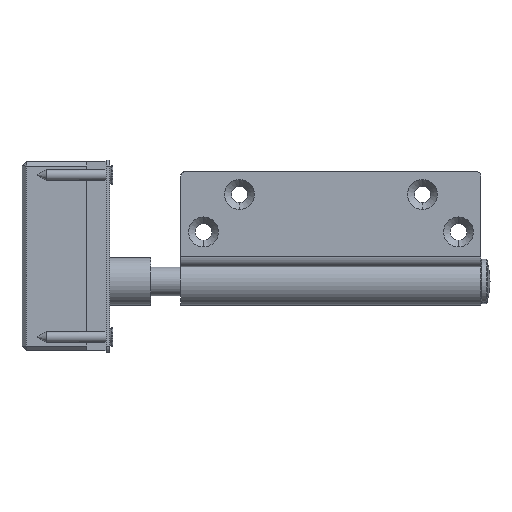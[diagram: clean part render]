
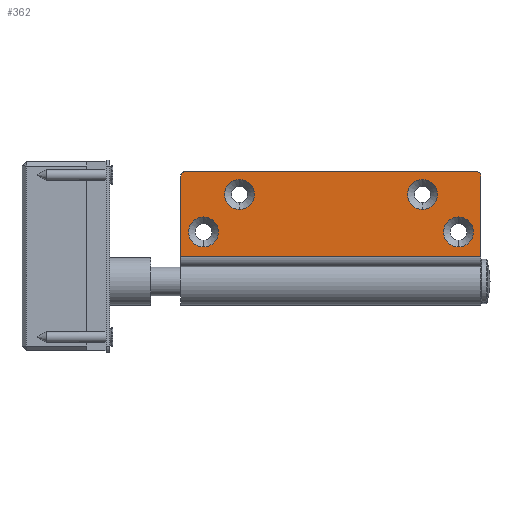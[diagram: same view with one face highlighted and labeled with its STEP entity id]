
A CAD part, left-side view. The second image highlights one B-rep face of the part: STEP entity #362.
In plain terms, the highlighted planar face has unit normal (-1, 0, 0).
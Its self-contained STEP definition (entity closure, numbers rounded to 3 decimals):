
#40 = CIRCLE ( 'NONE', #5202, 1. ) ;
#60 = CARTESIAN_POINT ( 'NONE',  ( 34.336, -32.391, 11.723 ) ) ;
#84 = CIRCLE ( 'NONE', #1997, 5. ) ;
#126 = CIRCLE ( 'NONE', #5201, 5. ) ;
#132 = CARTESIAN_POINT ( 'NONE',  ( 34.336, 52.609, 16.723 ) ) ;
#133 = DIRECTION ( 'NONE',  ( 0., -1., 0. ) ) ;
#191 = DIRECTION ( 'NONE',  ( 1., 0., 0. ) ) ;
#235 = ORIENTED_EDGE ( 'NONE', *, *, #981, .T. ) ;
#241 = CARTESIAN_POINT ( 'NONE',  ( 34.336, -20.391, 24.223 ) ) ;
#301 = LINE ( 'NONE', #2934, #983 ) ;
#322 = CIRCLE ( 'NONE', #2418, 5. ) ;
#359 = ORIENTED_EDGE ( 'NONE', *, *, #2956, .T. ) ;
#360 = EDGE_CURVE ( 'NONE', #4574, #5627, #2756, .T. ) ;
#362 = ADVANCED_FACE ( 'NONE', ( #3219, #647, #1538, #4094, #3249 ), #4121, .F. ) ;
#447 = CARTESIAN_POINT ( 'NONE',  ( 34.336, -20.391, 34.223 ) ) ;
#647 = FACE_BOUND ( 'NONE', #4544, .T. ) ;
#665 = CARTESIAN_POINT ( 'NONE',  ( 34.336, -32.391, 16.723 ) ) ;
#674 = DIRECTION ( 'NONE',  ( 0., 0., 1. ) ) ;
#676 = DIRECTION ( 'NONE',  ( 0., 0., -1. ) ) ;
#754 = EDGE_LOOP ( 'NONE', ( #359, #3417 ) ) ;
#773 = ORIENTED_EDGE ( 'NONE', *, *, #4048, .F. ) ;
#806 = VECTOR ( 'NONE', #133, 1000. ) ;
#876 = CIRCLE ( 'NONE', #1330, 5. ) ;
#890 = EDGE_CURVE ( 'NONE', #4574, #4867, #40, .T. ) ;
#981 = EDGE_CURVE ( 'NONE', #4124, #4071, #2774, .T. ) ;
#983 = VECTOR ( 'NONE', #674, 1000. ) ;
#1022 = EDGE_CURVE ( 'NONE', #3284, #5627, #3678, .T. ) ;
#1037 = VERTEX_POINT ( 'NONE', #3545 ) ;
#1089 = VERTEX_POINT ( 'NONE', #60 ) ;
#1194 = ORIENTED_EDGE ( 'NONE', *, *, #360, .F. ) ;
#1209 = DIRECTION ( 'NONE',  ( 0., 0., 1. ) ) ;
#1245 = ORIENTED_EDGE ( 'NONE', *, *, #1022, .T. ) ;
#1328 = VERTEX_POINT ( 'NONE', #3401 ) ;
#1330 = AXIS2_PLACEMENT_3D ( 'NONE', #4724, #3520, #5618 ) ;
#1364 = ORIENTED_EDGE ( 'NONE', *, *, #2158, .T. ) ;
#1453 = LINE ( 'NONE', #4875, #5154 ) ;
#1486 = CARTESIAN_POINT ( 'NONE',  ( 34.336, 60.109, 36.723 ) ) ;
#1538 = FACE_BOUND ( 'NONE', #4912, .T. ) ;
#1593 = LINE ( 'NONE', #4559, #3333 ) ;
#1615 = DIRECTION ( 'NONE',  ( 1., 0., 0. ) ) ;
#1652 = DIRECTION ( 'NONE',  ( 1., 0., 0. ) ) ;
#1664 = CARTESIAN_POINT ( 'NONE',  ( 34.336, 59.109, 36.723 ) ) ;
#1720 = DIRECTION ( 'NONE',  ( 1., 0., 0. ) ) ;
#1829 = DIRECTION ( 'NONE',  ( -1., 0., 0. ) ) ;
#1966 = VERTEX_POINT ( 'NONE', #3494 ) ;
#1997 = AXIS2_PLACEMENT_3D ( 'NONE', #5397, #3729, #5460 ) ;
#2004 = DIRECTION ( 'NONE',  ( 0., 0., -1. ) ) ;
#2025 = VERTEX_POINT ( 'NONE', #3992 ) ;
#2157 = AXIS2_PLACEMENT_3D ( 'NONE', #665, #1652, #5065 ) ;
#2158 = EDGE_CURVE ( 'NONE', #4071, #4124, #126, .T. ) ;
#2181 = AXIS2_PLACEMENT_3D ( 'NONE', #132, #2755, #2730 ) ;
#2333 = AXIS2_PLACEMENT_3D ( 'NONE', #4315, #4340, #3495 ) ;
#2390 = CARTESIAN_POINT ( 'NONE',  ( 34.336, 60.109, 5.073 ) ) ;
#2418 = AXIS2_PLACEMENT_3D ( 'NONE', #5347, #5320, #3654 ) ;
#2730 = DIRECTION ( 'NONE',  ( 0., 0., -1. ) ) ;
#2755 = DIRECTION ( 'NONE',  ( 1., 0., 0. ) ) ;
#2756 = LINE ( 'NONE', #1486, #806 ) ;
#2774 = CIRCLE ( 'NONE', #5300, 5. ) ;
#2834 = ORIENTED_EDGE ( 'NONE', *, *, #3025, .T. ) ;
#2839 = EDGE_CURVE ( 'NONE', #1089, #3686, #2974, .T. ) ;
#2840 = CARTESIAN_POINT ( 'NONE',  ( 34.336, -38.891, 36.723 ) ) ;
#2898 = AXIS2_PLACEMENT_3D ( 'NONE', #2390, #191, #676 ) ;
#2905 = EDGE_CURVE ( 'NONE', #1966, #3284, #1593, .T. ) ;
#2920 = ORIENTED_EDGE ( 'NONE', *, *, #3326, .T. ) ;
#2934 = CARTESIAN_POINT ( 'NONE',  ( 34.336, 60.109, 5.073 ) ) ;
#2956 = EDGE_CURVE ( 'NONE', #1328, #1037, #4851, .T. ) ;
#2974 = CIRCLE ( 'NONE', #2157, 5. ) ;
#2980 = DIRECTION ( 'NONE',  ( 0., 0., -1. ) ) ;
#3012 = ORIENTED_EDGE ( 'NONE', *, *, #3913, .T. ) ;
#3025 = EDGE_CURVE ( 'NONE', #2025, #3714, #322, .T. ) ;
#3038 = CARTESIAN_POINT ( 'NONE',  ( 34.336, 59.109, 35.723 ) ) ;
#3193 = DIRECTION ( 'NONE',  ( 0., -1., 0. ) ) ;
#3219 = FACE_BOUND ( 'NONE', #754, .T. ) ;
#3249 = FACE_OUTER_BOUND ( 'NONE', #3546, .T. ) ;
#3284 = VERTEX_POINT ( 'NONE', #5593 ) ;
#3326 = EDGE_CURVE ( 'NONE', #3686, #1089, #876, .T. ) ;
#3333 = VECTOR ( 'NONE', #1209, 1000. ) ;
#3387 = VERTEX_POINT ( 'NONE', #4047 ) ;
#3401 = CARTESIAN_POINT ( 'NONE',  ( 34.336, 52.609, 21.723 ) ) ;
#3417 = ORIENTED_EDGE ( 'NONE', *, *, #3742, .T. ) ;
#3465 = CARTESIAN_POINT ( 'NONE',  ( 34.336, -20.391, 29.223 ) ) ;
#3494 = CARTESIAN_POINT ( 'NONE',  ( 34.336, -39.891, 8.573 ) ) ;
#3495 = DIRECTION ( 'NONE',  ( 0., 0., -1. ) ) ;
#3507 = AXIS2_PLACEMENT_3D ( 'NONE', #3958, #1829, #3928 ) ;
#3510 = CARTESIAN_POINT ( 'NONE',  ( 34.336, 40.609, 24.223 ) ) ;
#3520 = DIRECTION ( 'NONE',  ( 1., 0., 0. ) ) ;
#3545 = CARTESIAN_POINT ( 'NONE',  ( 34.336, 52.609, 11.723 ) ) ;
#3546 = EDGE_LOOP ( 'NONE', ( #3789, #1245, #1194, #5378, #773, #3012 ) ) ;
#3628 = CIRCLE ( 'NONE', #2181, 5. ) ;
#3654 = DIRECTION ( 'NONE',  ( 0., 0., -1. ) ) ;
#3678 = CIRCLE ( 'NONE', #3507, 1. ) ;
#3686 = VERTEX_POINT ( 'NONE', #4818 ) ;
#3695 = CARTESIAN_POINT ( 'NONE',  ( 34.336, 60.109, 35.723 ) ) ;
#3714 = VERTEX_POINT ( 'NONE', #3510 ) ;
#3729 = DIRECTION ( 'NONE',  ( 1., 0., 0. ) ) ;
#3742 = EDGE_CURVE ( 'NONE', #1037, #1328, #3628, .T. ) ;
#3789 = ORIENTED_EDGE ( 'NONE', *, *, #2905, .T. ) ;
#3913 = EDGE_CURVE ( 'NONE', #3387, #1966, #1453, .T. ) ;
#3928 = DIRECTION ( 'NONE',  ( 0., 0., -1. ) ) ;
#3958 = CARTESIAN_POINT ( 'NONE',  ( 34.336, -38.891, 35.723 ) ) ;
#3992 = CARTESIAN_POINT ( 'NONE',  ( 34.336, 40.609, 34.223 ) ) ;
#4047 = CARTESIAN_POINT ( 'NONE',  ( 34.336, 60.109, 8.573 ) ) ;
#4048 = EDGE_CURVE ( 'NONE', #3387, #4867, #301, .T. ) ;
#4071 = VERTEX_POINT ( 'NONE', #241 ) ;
#4094 = FACE_BOUND ( 'NONE', #4477, .T. ) ;
#4121 = PLANE ( 'NONE',  #2898 ) ;
#4124 = VERTEX_POINT ( 'NONE', #447 ) ;
#4315 = CARTESIAN_POINT ( 'NONE',  ( 34.336, 52.609, 16.723 ) ) ;
#4340 = DIRECTION ( 'NONE',  ( 1., 0., 0. ) ) ;
#4477 = EDGE_LOOP ( 'NONE', ( #2920, #5572 ) ) ;
#4544 = EDGE_LOOP ( 'NONE', ( #2834, #4619 ) ) ;
#4559 = CARTESIAN_POINT ( 'NONE',  ( 34.336, -39.891, 5.073 ) ) ;
#4564 = EDGE_CURVE ( 'NONE', #3714, #2025, #84, .T. ) ;
#4574 = VERTEX_POINT ( 'NONE', #1664 ) ;
#4619 = ORIENTED_EDGE ( 'NONE', *, *, #4564, .T. ) ;
#4724 = CARTESIAN_POINT ( 'NONE',  ( 34.336, -32.391, 16.723 ) ) ;
#4818 = CARTESIAN_POINT ( 'NONE',  ( 34.336, -32.391, 21.723 ) ) ;
#4851 = CIRCLE ( 'NONE', #2333, 5. ) ;
#4867 = VERTEX_POINT ( 'NONE', #3695 ) ;
#4875 = CARTESIAN_POINT ( 'NONE',  ( 34.336, 60.109, 8.573 ) ) ;
#4912 = EDGE_LOOP ( 'NONE', ( #235, #1364 ) ) ;
#5065 = DIRECTION ( 'NONE',  ( 0., 0., -1. ) ) ;
#5140 = DIRECTION ( 'NONE',  ( 0., 0., -1. ) ) ;
#5154 = VECTOR ( 'NONE', #3193, 1000. ) ;
#5193 = DIRECTION ( 'NONE',  ( -1., 0., 0. ) ) ;
#5201 = AXIS2_PLACEMENT_3D ( 'NONE', #5500, #1615, #2004 ) ;
#5202 = AXIS2_PLACEMENT_3D ( 'NONE', #3038, #5193, #2980 ) ;
#5300 = AXIS2_PLACEMENT_3D ( 'NONE', #3465, #1720, #5140 ) ;
#5320 = DIRECTION ( 'NONE',  ( 1., 0., 0. ) ) ;
#5347 = CARTESIAN_POINT ( 'NONE',  ( 34.336, 40.609, 29.223 ) ) ;
#5378 = ORIENTED_EDGE ( 'NONE', *, *, #890, .T. ) ;
#5397 = CARTESIAN_POINT ( 'NONE',  ( 34.336, 40.609, 29.223 ) ) ;
#5460 = DIRECTION ( 'NONE',  ( 0., 0., -1. ) ) ;
#5500 = CARTESIAN_POINT ( 'NONE',  ( 34.336, -20.391, 29.223 ) ) ;
#5572 = ORIENTED_EDGE ( 'NONE', *, *, #2839, .T. ) ;
#5593 = CARTESIAN_POINT ( 'NONE',  ( 34.336, -39.891, 35.723 ) ) ;
#5618 = DIRECTION ( 'NONE',  ( 0., 0., -1. ) ) ;
#5627 = VERTEX_POINT ( 'NONE', #2840 ) ;
